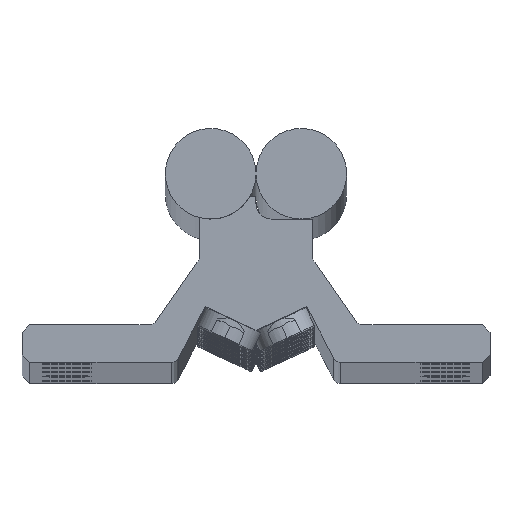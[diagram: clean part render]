
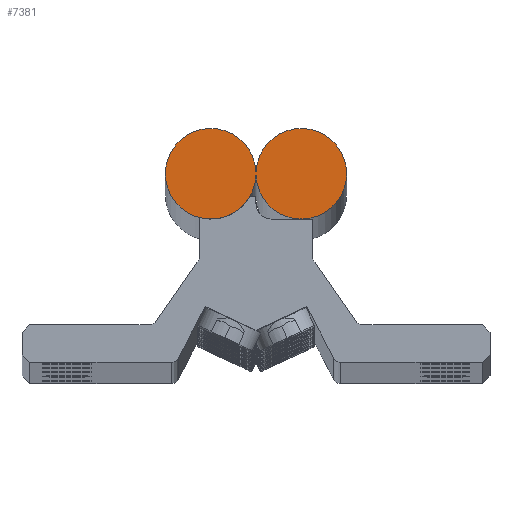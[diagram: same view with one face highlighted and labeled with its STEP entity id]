
A CAD part, top view. The second image highlights one B-rep face of the part: STEP entity #7381.
In plain terms, the highlighted planar face has unit normal (0, 0, 1).
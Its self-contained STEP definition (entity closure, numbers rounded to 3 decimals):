
#2752 = VERTEX_POINT ( 'NONE', #24260 ) ;
#2754 = EDGE_CURVE ( 'NONE', #2755, #2752, #24259, .T. ) ;
#2755 = VERTEX_POINT ( 'NONE', #24254 ) ;
#7232 = VERTEX_POINT ( 'NONE', #19966 ) ;
#7234 = EDGE_CURVE ( 'NONE', #2752, #7232, #20030, .T. ) ;
#7310 = EDGE_CURVE ( 'NONE', #7232, #7344, #8680, .T. ) ;
#7335 = EDGE_CURVE ( 'NONE', #7336, #2755, #8710, .T. ) ;
#7336 = VERTEX_POINT ( 'NONE', #8706 ) ;
#7343 = EDGE_CURVE ( 'NONE', #7344, #7336, #8698, .T. ) ;
#7344 = VERTEX_POINT ( 'NONE', #8757 ) ;
#7381 = ADVANCED_FACE ( 'NONE', ( #8783 ), #8787, .T. ) ;
#7382 = EDGE_LOOP ( 'NONE', ( #7383, #7384, #7385, #7386, #7387 ) ) ;
#7383 = ORIENTED_EDGE ( 'NONE', *, *, #2754, .T. ) ;
#7384 = ORIENTED_EDGE ( 'NONE', *, *, #7234, .T. ) ;
#7385 = ORIENTED_EDGE ( 'NONE', *, *, #7310, .T. ) ;
#7386 = ORIENTED_EDGE ( 'NONE', *, *, #7343, .T. ) ;
#7387 = ORIENTED_EDGE ( 'NONE', *, *, #7335, .T. ) ;
#8673 = DIRECTION ( 'NONE',  ( -1., 0., 0. ) ) ;
#8674 = VECTOR ( 'NONE', #8673, 1000. ) ;
#8675 = CARTESIAN_POINT ( 'NONE',  ( 0.005, 25.25, 1. ) ) ;
#8680 = LINE ( 'NONE', #8675, #8674 ) ;
#8698 = CIRCLE ( 'NONE', #8761, 6. ) ;
#8706 = CARTESIAN_POINT ( 'NONE',  ( -0.005, 24.75, 1. ) ) ;
#8707 = DIRECTION ( 'NONE',  ( 1., 0., 0. ) ) ;
#8708 = VECTOR ( 'NONE', #8707, 1000. ) ;
#8709 = CARTESIAN_POINT ( 'NONE',  ( -0.005, 24.75, 1. ) ) ;
#8710 = LINE ( 'NONE', #8709, #8708 ) ;
#8757 = CARTESIAN_POINT ( 'NONE',  ( -0.005, 25.25, 1. ) ) ;
#8758 = DIRECTION ( 'NONE',  ( 1., 0., 0. ) ) ;
#8759 = DIRECTION ( 'NONE',  ( 0., 0., 1. ) ) ;
#8760 = CARTESIAN_POINT ( 'NONE',  ( -6., 25., 1. ) ) ;
#8761 = AXIS2_PLACEMENT_3D ( 'NONE', #8760, #8759, #8758 ) ;
#8779 = DIRECTION ( 'NONE',  ( 1., 0., 0. ) ) ;
#8780 = DIRECTION ( 'NONE',  ( 0., 0., 1. ) ) ;
#8781 = CARTESIAN_POINT ( 'NONE',  ( 6., 25., 1. ) ) ;
#8782 = AXIS2_PLACEMENT_3D ( 'NONE', #8781, #8780, #8779 ) ;
#8783 = FACE_OUTER_BOUND ( 'NONE', #7382, .T. ) ;
#8787 = PLANE ( 'NONE',  #8782 ) ;
#19966 = CARTESIAN_POINT ( 'NONE',  ( 0.005, 25.25, 1. ) ) ;
#20026 = DIRECTION ( 'NONE',  ( 1., 0., 0. ) ) ;
#20027 = DIRECTION ( 'NONE',  ( 0., 0., 1. ) ) ;
#20028 = CARTESIAN_POINT ( 'NONE',  ( 6., 25., 1. ) ) ;
#20029 = AXIS2_PLACEMENT_3D ( 'NONE', #20028, #20027, #20026 ) ;
#20030 = CIRCLE ( 'NONE', #20029, 6. ) ;
#24254 = CARTESIAN_POINT ( 'NONE',  ( 0.005, 24.75, 1. ) ) ;
#24255 = DIRECTION ( 'NONE',  ( 1., 0., 0. ) ) ;
#24256 = DIRECTION ( 'NONE',  ( 0., 0., 1. ) ) ;
#24257 = CARTESIAN_POINT ( 'NONE',  ( 6., 25., 1. ) ) ;
#24258 = AXIS2_PLACEMENT_3D ( 'NONE', #24257, #24256, #24255 ) ;
#24259 = CIRCLE ( 'NONE', #24258, 6. ) ;
#24260 = CARTESIAN_POINT ( 'NONE',  ( 12., 25., 1. ) ) ;
